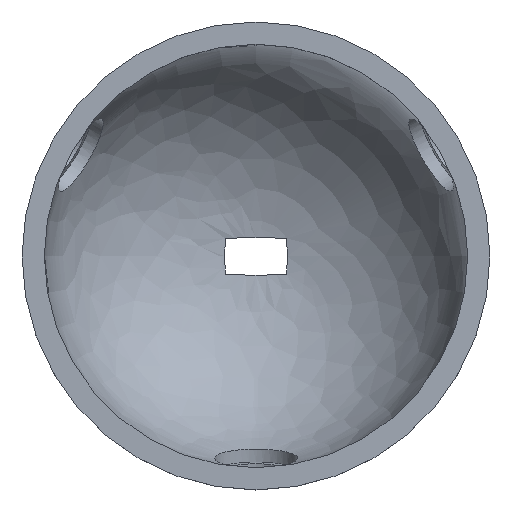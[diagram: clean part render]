
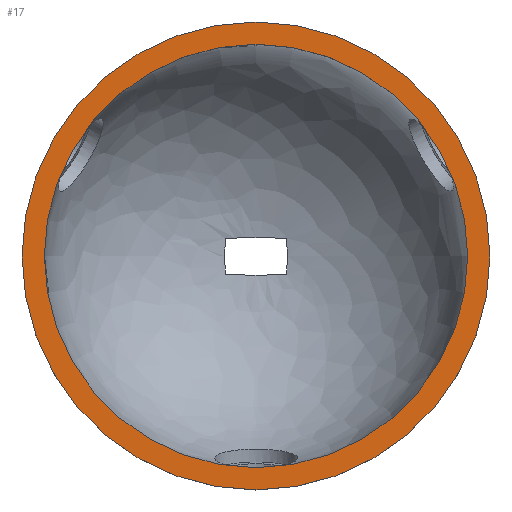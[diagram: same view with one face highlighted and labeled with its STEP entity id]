
A CAD part, top view. The second image highlights one B-rep face of the part: STEP entity #17.
In plain terms, the highlighted planar face has unit normal (0, 0, 1).
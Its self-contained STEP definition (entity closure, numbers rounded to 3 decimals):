
#17 = ADVANCED_FACE('',(#18,#54),#31,.T.);
#18 = FACE_BOUND('',#19,.F.);
#19 = EDGE_LOOP('',(#20));
#20 = ORIENTED_EDGE('',*,*,#21,.T.);
#21 = EDGE_CURVE('',#22,#22,#24,.T.);
#22 = VERTEX_POINT('',#23);
#23 = CARTESIAN_POINT('',(28.5,0.,0.));
#24 = SURFACE_CURVE('',#25,(#30,#42),.PCURVE_S1.);
#25 = CIRCLE('',#26,28.5);
#26 = AXIS2_PLACEMENT_3D('',#27,#28,#29);
#27 = CARTESIAN_POINT('',(0.,0.,0.));
#28 = DIRECTION('',(0.,0.,1.));
#29 = DIRECTION('',(1.,0.,-0.));
#30 = PCURVE('',#31,#36);
#31 = PLANE('',#32);
#32 = AXIS2_PLACEMENT_3D('',#33,#34,#35);
#33 = CARTESIAN_POINT('',(0.,0.,0.));
#34 = DIRECTION('',(0.,0.,1.));
#35 = DIRECTION('',(1.,0.,-0.));
#36 = DEFINITIONAL_REPRESENTATION('',(#37),#41);
#37 = CIRCLE('',#38,28.5);
#38 = AXIS2_PLACEMENT_2D('',#39,#40);
#39 = CARTESIAN_POINT('',(0.,0.));
#40 = DIRECTION('',(1.,-0.));
#41 = ( GEOMETRIC_REPRESENTATION_CONTEXT(2) 
PARAMETRIC_REPRESENTATION_CONTEXT() REPRESENTATION_CONTEXT('2D SPACE',''
  ) );
#42 = PCURVE('',#43,#48);
#43 = CYLINDRICAL_SURFACE('',#44,28.5);
#44 = AXIS2_PLACEMENT_3D('',#45,#46,#47);
#45 = CARTESIAN_POINT('',(0.,0.,-4.));
#46 = DIRECTION('',(0.,0.,1.));
#47 = DIRECTION('',(1.,0.,-0.));
#48 = DEFINITIONAL_REPRESENTATION('',(#49),#53);
#49 = LINE('',#50,#51);
#50 = CARTESIAN_POINT('',(0.,4.));
#51 = VECTOR('',#52,1.);
#52 = DIRECTION('',(1.,0.));
#53 = ( GEOMETRIC_REPRESENTATION_CONTEXT(2) 
PARAMETRIC_REPRESENTATION_CONTEXT() REPRESENTATION_CONTEXT('2D SPACE',''
  ) );
#54 = FACE_BOUND('',#55,.F.);
#55 = EDGE_LOOP('',(#56));
#56 = ORIENTED_EDGE('',*,*,#57,.F.);
#57 = EDGE_CURVE('',#58,#58,#60,.T.);
#58 = VERTEX_POINT('',#59);
#59 = CARTESIAN_POINT('',(31.5,0.,0.));
#60 = SURFACE_CURVE('',#61,(#66,#73),.PCURVE_S1.);
#61 = CIRCLE('',#62,31.5);
#62 = AXIS2_PLACEMENT_3D('',#63,#64,#65);
#63 = CARTESIAN_POINT('',(0.,0.,0.));
#64 = DIRECTION('',(0.,0.,1.));
#65 = DIRECTION('',(1.,0.,-0.));
#66 = PCURVE('',#31,#67);
#67 = DEFINITIONAL_REPRESENTATION('',(#68),#72);
#68 = CIRCLE('',#69,31.5);
#69 = AXIS2_PLACEMENT_2D('',#70,#71);
#70 = CARTESIAN_POINT('',(0.,0.));
#71 = DIRECTION('',(1.,-0.));
#72 = ( GEOMETRIC_REPRESENTATION_CONTEXT(2) 
PARAMETRIC_REPRESENTATION_CONTEXT() REPRESENTATION_CONTEXT('2D SPACE',''
  ) );
#73 = PCURVE('',#74,#79);
#74 = CYLINDRICAL_SURFACE('',#75,31.5);
#75 = AXIS2_PLACEMENT_3D('',#76,#77,#78);
#76 = CARTESIAN_POINT('',(0.,0.,0.));
#77 = DIRECTION('',(-0.,-0.,-1.));
#78 = DIRECTION('',(1.,0.,0.));
#79 = DEFINITIONAL_REPRESENTATION('',(#80),#84);
#80 = LINE('',#81,#82);
#81 = CARTESIAN_POINT('',(-0.,0.));
#82 = VECTOR('',#83,1.);
#83 = DIRECTION('',(-1.,0.));
#84 = ( GEOMETRIC_REPRESENTATION_CONTEXT(2) 
PARAMETRIC_REPRESENTATION_CONTEXT() REPRESENTATION_CONTEXT('2D SPACE',''
  ) );
